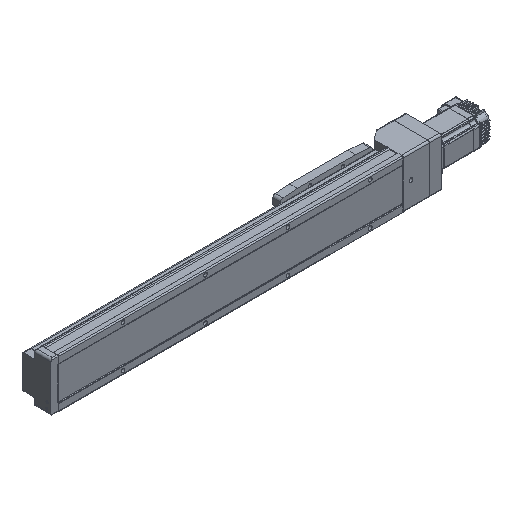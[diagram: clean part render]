
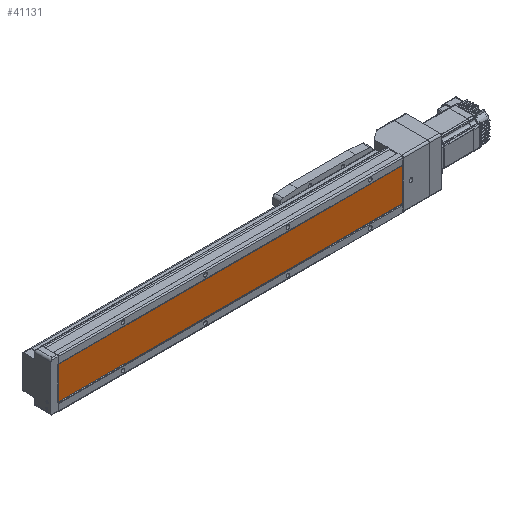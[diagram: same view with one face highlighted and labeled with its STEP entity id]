
A CAD part, isometric view. The second image highlights one B-rep face of the part: STEP entity #41131.
In plain terms, the highlighted planar face has unit normal (0, -1, 0).
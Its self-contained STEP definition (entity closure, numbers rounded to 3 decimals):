
#333 = ORIENTED_EDGE ( 'NONE', *, *, #14208, .T. ) ;
#420 = ORIENTED_EDGE ( 'NONE', *, *, #3407, .F. ) ;
#3407 = EDGE_CURVE ( 'NONE', #18090, #7773, #48404, .T. ) ;
#7773 = VERTEX_POINT ( 'NONE', #12691 ) ;
#9040 = PLANE ( 'NONE',  #42961 ) ;
#9887 = CARTESIAN_POINT ( 'NONE',  ( -29.843, 1., 0. ) ) ;
#12691 = CARTESIAN_POINT ( 'NONE',  ( 29.843, 1., 0. ) ) ;
#12912 = EDGE_LOOP ( 'NONE', ( #24134, #333, #24563, #420 ) ) ;
#14208 = EDGE_CURVE ( 'NONE', #29642, #31131, #41970, .T. ) ;
#18090 = VERTEX_POINT ( 'NONE', #40541 ) ;
#18146 = DIRECTION ( 'NONE',  ( 1., 0., 0. ) ) ;
#18364 = VECTOR ( 'NONE', #18146, 1000. ) ;
#21460 = DIRECTION ( 'NONE',  ( 0., 0., 1. ) ) ;
#21798 = VECTOR ( 'NONE', #24577, 1000. ) ;
#24073 = EDGE_CURVE ( 'NONE', #29642, #18090, #40947, .T. ) ;
#24134 = ORIENTED_EDGE ( 'NONE', *, *, #24073, .F. ) ;
#24563 = ORIENTED_EDGE ( 'NONE', *, *, #34365, .T. ) ;
#24577 = DIRECTION ( 'NONE',  ( 0., 0., -1. ) ) ;
#26633 = DIRECTION ( 'NONE',  ( 0., 1., 0. ) ) ;
#29642 = VERTEX_POINT ( 'NONE', #48436 ) ;
#30136 = CARTESIAN_POINT ( 'NONE',  ( -29.843, 1., 1378. ) ) ;
#31131 = VERTEX_POINT ( 'NONE', #9887 ) ;
#32859 = VECTOR ( 'NONE', #36202, 1000. ) ;
#34365 = EDGE_CURVE ( 'NONE', #31131, #7773, #57015, .T. ) ;
#35444 = CARTESIAN_POINT ( 'NONE',  ( -29.843, 1., 628. ) ) ;
#35737 = DIRECTION ( 'NONE',  ( 1., 0., 0. ) ) ;
#35913 = CARTESIAN_POINT ( 'NONE',  ( 29.843, 1., 1378. ) ) ;
#36202 = DIRECTION ( 'NONE',  ( 0., 0., -1. ) ) ;
#40541 = CARTESIAN_POINT ( 'NONE',  ( 29.843, 1., 628. ) ) ;
#40947 = LINE ( 'NONE', #35444, #48058 ) ;
#41131 = ADVANCED_FACE ( 'NONE', ( #47844 ), #9040, .F. ) ;
#41970 = LINE ( 'NONE', #42827, #21798 ) ;
#42827 = CARTESIAN_POINT ( 'NONE',  ( -29.843, 1., 1378. ) ) ;
#42961 = AXIS2_PLACEMENT_3D ( 'NONE', #30136, #26633, #21460 ) ;
#47844 = FACE_OUTER_BOUND ( 'NONE', #12912, .T. ) ;
#48058 = VECTOR ( 'NONE', #35737, 1000. ) ;
#48404 = LINE ( 'NONE', #35913, #32859 ) ;
#48436 = CARTESIAN_POINT ( 'NONE',  ( -29.843, 1., 628. ) ) ;
#53829 = CARTESIAN_POINT ( 'NONE',  ( -29.843, 1., 0. ) ) ;
#57015 = LINE ( 'NONE', #53829, #18364 ) ;
